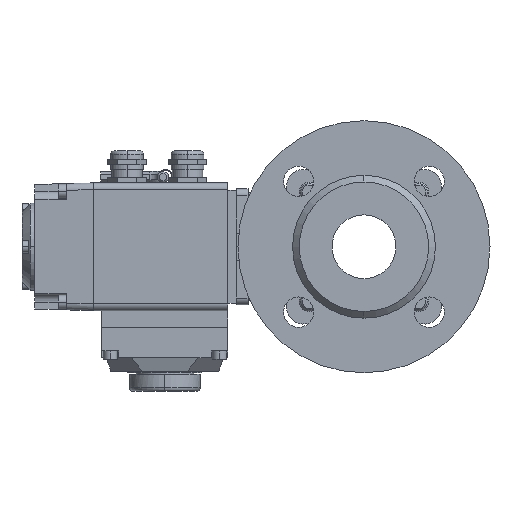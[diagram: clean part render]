
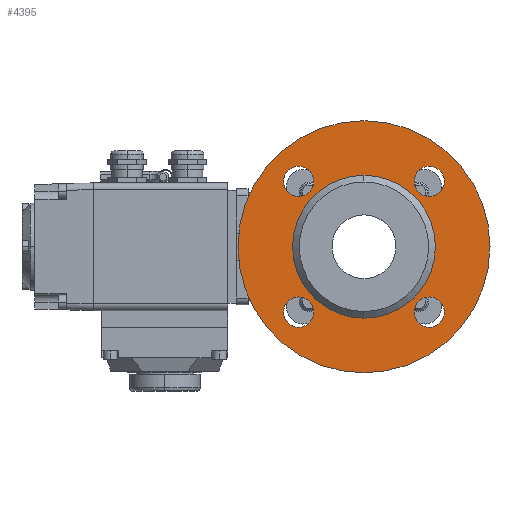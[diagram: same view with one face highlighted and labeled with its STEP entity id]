
A CAD part, left-side view. The second image highlights one B-rep face of the part: STEP entity #4395.
In plain terms, the highlighted planar face has unit normal (-1, 0, 0).
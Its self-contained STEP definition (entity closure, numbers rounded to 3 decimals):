
#1=CARTESIAN_POINT('',(-54.,0.,0.));
#2=DIRECTION('',(-1.,0.,0.));
#3=DIRECTION('',(0.,0.,1.));
#4=AXIS2_PLACEMENT_3D('',#1,#2,#3);
#6=CARTESIAN_POINT('',(-54.,0.,0.));
#7=DIRECTION('',(-1.,0.,0.));
#8=DIRECTION('',(0.,0.,-1.));
#9=AXIS2_PLACEMENT_3D('',#6,#7,#8);
#11=CARTESIAN_POINT('',(-54.,0.,0.));
#12=DIRECTION('',(-1.,0.,0.));
#13=DIRECTION('',(0.,0.,1.));
#14=AXIS2_PLACEMENT_3D('',#11,#12,#13);
#16=CARTESIAN_POINT('',(-54.,0.,0.));
#17=DIRECTION('',(-1.,0.,0.));
#18=DIRECTION('',(0.,0.,-1.));
#19=AXIS2_PLACEMENT_3D('',#16,#17,#18);
#21=CARTESIAN_POINT('',(-54.,38.891,-38.891));
#22=DIRECTION('',(-1.,0.,0.));
#23=DIRECTION('',(0.,0.,1.));
#24=AXIS2_PLACEMENT_3D('',#21,#22,#23);
#26=CARTESIAN_POINT('',(-54.,38.891,-38.891));
#27=DIRECTION('',(-1.,0.,0.));
#28=DIRECTION('',(0.,0.,-1.));
#29=AXIS2_PLACEMENT_3D('',#26,#27,#28);
#31=CARTESIAN_POINT('',(-54.,-38.891,-38.891));
#32=DIRECTION('',(-1.,0.,0.));
#33=DIRECTION('',(0.,1.,0.));
#34=AXIS2_PLACEMENT_3D('',#31,#32,#33);
#36=CARTESIAN_POINT('',(-54.,-38.891,-38.891));
#37=DIRECTION('',(-1.,0.,0.));
#38=DIRECTION('',(0.,-1.,0.));
#39=AXIS2_PLACEMENT_3D('',#36,#37,#38);
#41=CARTESIAN_POINT('',(-54.,-38.891,38.891));
#42=DIRECTION('',(-1.,0.,0.));
#43=DIRECTION('',(0.,0.,-1.));
#44=AXIS2_PLACEMENT_3D('',#41,#42,#43);
#46=CARTESIAN_POINT('',(-54.,-38.891,38.891));
#47=DIRECTION('',(-1.,0.,0.));
#48=DIRECTION('',(0.,0.,1.));
#49=AXIS2_PLACEMENT_3D('',#46,#47,#48);
#51=CARTESIAN_POINT('',(-54.,38.891,38.891));
#52=DIRECTION('',(-1.,0.,0.));
#53=DIRECTION('',(0.,-1.,0.));
#54=AXIS2_PLACEMENT_3D('',#51,#52,#53);
#56=CARTESIAN_POINT('',(-54.,38.891,38.891));
#57=DIRECTION('',(-1.,0.,0.));
#58=DIRECTION('',(0.,1.,0.));
#59=AXIS2_PLACEMENT_3D('',#56,#57,#58);
#3496=CARTESIAN_POINT('',(-54.,0.,75.));
#3497=CARTESIAN_POINT('',(-54.,0.,-75.));
#3498=VERTEX_POINT('',#3496);
#3499=VERTEX_POINT('',#3497);
#3508=CARTESIAN_POINT('',(-54.,0.,42.5));
#3509=CARTESIAN_POINT('',(-54.,0.,-42.5));
#3510=VERTEX_POINT('',#3508);
#3511=VERTEX_POINT('',#3509);
#3589=CARTESIAN_POINT('',(-54.,38.891,-29.891));
#3590=CARTESIAN_POINT('',(-54.,38.891,-47.891));
#3591=VERTEX_POINT('',#3589);
#3592=VERTEX_POINT('',#3590);
#3597=CARTESIAN_POINT('',(-54.,-29.891,-38.891));
#3598=CARTESIAN_POINT('',(-54.,-47.891,-38.891));
#3599=VERTEX_POINT('',#3597);
#3600=VERTEX_POINT('',#3598);
#3605=CARTESIAN_POINT('',(-54.,-38.891,29.891));
#3606=CARTESIAN_POINT('',(-54.,-38.891,47.891));
#3607=VERTEX_POINT('',#3605);
#3608=VERTEX_POINT('',#3606);
#3613=CARTESIAN_POINT('',(-54.,29.891,38.891));
#3614=CARTESIAN_POINT('',(-54.,47.891,38.891));
#3615=VERTEX_POINT('',#3613);
#3616=VERTEX_POINT('',#3614);
#4354=CARTESIAN_POINT('',(-54.,0.,0.));
#4355=DIRECTION('',(-1.,0.,0.));
#4356=DIRECTION('',(0.,0.,1.));
#4357=AXIS2_PLACEMENT_3D('',#4354,#4355,#4356);
#4358=PLANE('',#4357);
#4360=ORIENTED_EDGE('',*,*,#4359,.F.);
#4362=ORIENTED_EDGE('',*,*,#4361,.F.);
#4363=EDGE_LOOP('',(#4360,#4362));
#4364=FACE_OUTER_BOUND('',#4363,.F.);
#4366=ORIENTED_EDGE('',*,*,#4365,.T.);
#4368=ORIENTED_EDGE('',*,*,#4367,.T.);
#4369=EDGE_LOOP('',(#4366,#4368));
#4370=FACE_BOUND('',#4369,.F.);
#4372=ORIENTED_EDGE('',*,*,#4371,.T.);
#4374=ORIENTED_EDGE('',*,*,#4373,.T.);
#4375=EDGE_LOOP('',(#4372,#4374));
#4376=FACE_BOUND('',#4375,.F.);
#4378=ORIENTED_EDGE('',*,*,#4377,.T.);
#4380=ORIENTED_EDGE('',*,*,#4379,.T.);
#4381=EDGE_LOOP('',(#4378,#4380));
#4382=FACE_BOUND('',#4381,.F.);
#4384=ORIENTED_EDGE('',*,*,#4383,.T.);
#4386=ORIENTED_EDGE('',*,*,#4385,.T.);
#4387=EDGE_LOOP('',(#4384,#4386));
#4388=FACE_BOUND('',#4387,.F.);
#4390=ORIENTED_EDGE('',*,*,#4389,.T.);
#4392=ORIENTED_EDGE('',*,*,#4391,.T.);
#4393=EDGE_LOOP('',(#4390,#4392));
#4394=FACE_BOUND('',#4393,.F.);
#4395=ADVANCED_FACE('',(#4364,#4370,#4376,#4382,#4388,#4394),#4358,.T.);
#5=CIRCLE('',#4,75.);
#10=CIRCLE('',#9,75.);
#15=CIRCLE('',#14,42.5);
#20=CIRCLE('',#19,42.5);
#25=CIRCLE('',#24,9.);
#30=CIRCLE('',#29,9.);
#35=CIRCLE('',#34,9.);
#40=CIRCLE('',#39,9.);
#45=CIRCLE('',#44,9.);
#50=CIRCLE('',#49,9.);
#55=CIRCLE('',#54,9.);
#60=CIRCLE('',#59,9.);
#4359=EDGE_CURVE('',#3498,#3499,#5,.T.);
#4361=EDGE_CURVE('',#3499,#3498,#10,.T.);
#4365=EDGE_CURVE('',#3510,#3511,#15,.T.);
#4367=EDGE_CURVE('',#3511,#3510,#20,.T.);
#4371=EDGE_CURVE('',#3591,#3592,#25,.T.);
#4373=EDGE_CURVE('',#3592,#3591,#30,.T.);
#4377=EDGE_CURVE('',#3599,#3600,#35,.T.);
#4379=EDGE_CURVE('',#3600,#3599,#40,.T.);
#4383=EDGE_CURVE('',#3607,#3608,#45,.T.);
#4385=EDGE_CURVE('',#3608,#3607,#50,.T.);
#4389=EDGE_CURVE('',#3615,#3616,#55,.T.);
#4391=EDGE_CURVE('',#3616,#3615,#60,.T.);
